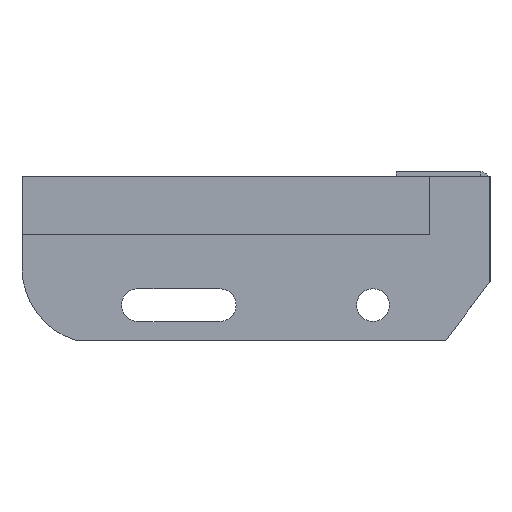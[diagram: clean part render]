
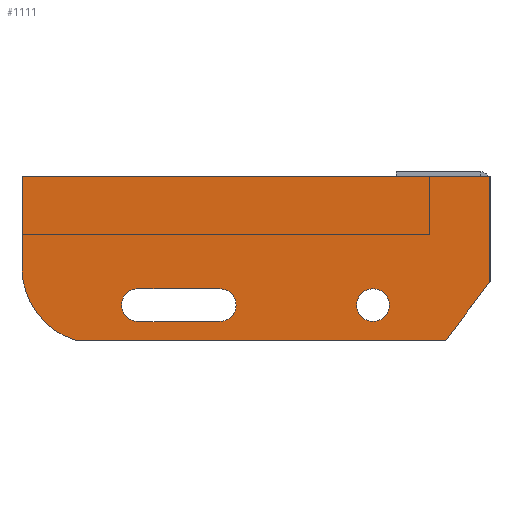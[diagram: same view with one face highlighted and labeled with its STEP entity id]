
A CAD part, left-side view. The second image highlights one B-rep face of the part: STEP entity #1111.
In plain terms, the highlighted planar face has unit normal (-1, 0, 0) as drawn and (0, 0, 1) by its records, which use the part's own axes.
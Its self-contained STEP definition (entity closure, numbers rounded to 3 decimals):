
#15 = VERTEX_POINT ( 'NONE', #165 ) ;
#21 = CARTESIAN_POINT ( 'NONE',  ( 0., 0., 3. ) ) ;
#30 = CARTESIAN_POINT ( 'NONE',  ( -115.5, -48., 3. ) ) ;
#66 = DIRECTION ( 'NONE',  ( 0., 0., 1. ) ) ;
#81 = DIRECTION ( 'NONE',  ( -1., 0., 0. ) ) ;
#90 = ORIENTED_EDGE ( 'NONE', *, *, #948, .T. ) ;
#91 = DIRECTION ( 'NONE',  ( 0., 0., 1. ) ) ;
#102 = VERTEX_POINT ( 'NONE', #1581 ) ;
#117 = EDGE_CURVE ( 'NONE', #898, #1334, #1098, .T. ) ;
#132 = VERTEX_POINT ( 'NONE', #30 ) ;
#165 = CARTESIAN_POINT ( 'NONE',  ( -200., -39., 3. ) ) ;
#168 = VERTEX_POINT ( 'NONE', #1945 ) ;
#176 = AXIS2_PLACEMENT_3D ( 'NONE', #391, #91, #1040 ) ;
#179 = VERTEX_POINT ( 'NONE', #684 ) ;
#180 = CARTESIAN_POINT ( 'NONE',  ( -18.839, -70., 3. ) ) ;
#185 = DIRECTION ( 'NONE',  ( -1., 0., 0. ) ) ;
#216 = DIRECTION ( 'NONE',  ( 0., 1., 0. ) ) ;
#270 = CARTESIAN_POINT ( 'NONE',  ( 0., -45., 3. ) ) ;
#276 = DIRECTION ( 'NONE',  ( 0., 0., 1. ) ) ;
#291 = EDGE_LOOP ( 'NONE', ( #870, #1460 ) ) ;
#302 = CIRCLE ( 'NONE', #1185, 7. ) ;
#316 = VERTEX_POINT ( 'NONE', #1192 ) ;
#373 = ORIENTED_EDGE ( 'NONE', *, *, #1555, .T. ) ;
#391 = CARTESIAN_POINT ( 'NONE',  ( -50., -55., 3. ) ) ;
#401 = AXIS2_PLACEMENT_3D ( 'NONE', #1843, #439, #1695 ) ;
#407 = DIRECTION ( 'NONE',  ( 1., 0., 0. ) ) ;
#434 = CARTESIAN_POINT ( 'NONE',  ( -57., -55., 3. ) ) ;
#439 = DIRECTION ( 'NONE',  ( 0., 0., 1. ) ) ;
#451 = ORIENTED_EDGE ( 'NONE', *, *, #2011, .F. ) ;
#455 = EDGE_CURVE ( 'NONE', #102, #1825, #793, .T. ) ;
#495 = DIRECTION ( 'NONE',  ( 1., 0., 0. ) ) ;
#496 = VECTOR ( 'NONE', #1368, 1000. ) ;
#501 = CARTESIAN_POINT ( 'NONE',  ( -150.5, -48., 3. ) ) ;
#535 = ORIENTED_EDGE ( 'NONE', *, *, #1600, .F. ) ;
#544 = CARTESIAN_POINT ( 'NONE',  ( -150.5, -48., 3. ) ) ;
#553 = CARTESIAN_POINT ( 'NONE',  ( -50., -55., 3. ) ) ;
#562 = AXIS2_PLACEMENT_3D ( 'NONE', #939, #276, #895 ) ;
#563 = EDGE_LOOP ( 'NONE', ( #1169, #1177, #451, #1079, #535 ) ) ;
#571 = CARTESIAN_POINT ( 'NONE',  ( -200., 0., 3. ) ) ;
#599 = DIRECTION ( 'NONE',  ( 1., 0., 0. ) ) ;
#614 = EDGE_CURVE ( 'NONE', #316, #102, #654, .T. ) ;
#654 = CIRCLE ( 'NONE', #1800, 7. ) ;
#684 = CARTESIAN_POINT ( 'NONE',  ( 0., -45., 3. ) ) ;
#685 = DIRECTION ( 'NONE',  ( 1., 0., 0. ) ) ;
#693 = CIRCLE ( 'NONE', #1867, 7. ) ;
#727 = ORIENTED_EDGE ( 'NONE', *, *, #876, .T. ) ;
#762 = CIRCLE ( 'NONE', #401, 7. ) ;
#766 = CARTESIAN_POINT ( 'NONE',  ( -150.5, -62., 3. ) ) ;
#771 = CARTESIAN_POINT ( 'NONE',  ( -167.5, -39., 3. ) ) ;
#793 = LINE ( 'NONE', #766, #1676 ) ;
#798 = CARTESIAN_POINT ( 'NONE',  ( -115.5, -62., 3. ) ) ;
#812 = VERTEX_POINT ( 'NONE', #1790 ) ;
#870 = ORIENTED_EDGE ( 'NONE', *, *, #1326, .F. ) ;
#876 = EDGE_CURVE ( 'NONE', #1532, #179, #1328, .T. ) ;
#895 = DIRECTION ( 'NONE',  ( 1., 0., 0. ) ) ;
#898 = VERTEX_POINT ( 'NONE', #1021 ) ;
#899 = LINE ( 'NONE', #1875, #496 ) ;
#918 = FACE_BOUND ( 'NONE', #291, .T. ) ;
#921 = EDGE_CURVE ( 'NONE', #812, #987, #693, .T. ) ;
#939 = CARTESIAN_POINT ( 'NONE',  ( -167.5, -39., 3. ) ) ;
#948 = EDGE_CURVE ( 'NONE', #1334, #15, #899, .T. ) ;
#955 = LINE ( 'NONE', #180, #1549 ) ;
#958 = ORIENTED_EDGE ( 'NONE', *, *, #1983, .T. ) ;
#987 = VERTEX_POINT ( 'NONE', #434 ) ;
#1001 = LINE ( 'NONE', #1145, #1452 ) ;
#1021 = CARTESIAN_POINT ( 'NONE',  ( 0., 0., 3. ) ) ;
#1025 = CIRCLE ( 'NONE', #176, 7. ) ;
#1040 = DIRECTION ( 'NONE',  ( 1., 0., 0. ) ) ;
#1056 = VECTOR ( 'NONE', #1951, 1000. ) ;
#1079 = ORIENTED_EDGE ( 'NONE', *, *, #1348, .F. ) ;
#1098 = LINE ( 'NONE', #21, #1345 ) ;
#1111 = ADVANCED_FACE ( 'NONE', ( #1688, #918, #1533 ), #1376, .T. ) ;
#1145 = CARTESIAN_POINT ( 'NONE',  ( 0., 0., 3. ) ) ;
#1169 = ORIENTED_EDGE ( 'NONE', *, *, #455, .F. ) ;
#1177 = ORIENTED_EDGE ( 'NONE', *, *, #614, .F. ) ;
#1185 = AXIS2_PLACEMENT_3D ( 'NONE', #1308, #66, #685 ) ;
#1192 = CARTESIAN_POINT ( 'NONE',  ( -157.5, -55., 3. ) ) ;
#1222 = DIRECTION ( 'NONE',  ( 1., 0., 0. ) ) ;
#1270 = DIRECTION ( 'NONE',  ( 0., 0., 1. ) ) ;
#1308 = CARTESIAN_POINT ( 'NONE',  ( -150.5, -55., 3. ) ) ;
#1317 = CARTESIAN_POINT ( 'NONE',  ( -150.5, -55., 3. ) ) ;
#1324 = EDGE_LOOP ( 'NONE', ( #958, #1367, #90, #373, #1705, #727 ) ) ;
#1326 = EDGE_CURVE ( 'NONE', #987, #812, #1025, .T. ) ;
#1328 = LINE ( 'NONE', #270, #1056 ) ;
#1334 = VERTEX_POINT ( 'NONE', #571 ) ;
#1345 = VECTOR ( 'NONE', #185, 1000. ) ;
#1348 = EDGE_CURVE ( 'NONE', #132, #1833, #1948, .T. ) ;
#1367 = ORIENTED_EDGE ( 'NONE', *, *, #117, .T. ) ;
#1368 = DIRECTION ( 'NONE',  ( 0., -1., 0. ) ) ;
#1376 = PLANE ( 'NONE',  #1738 ) ;
#1452 = VECTOR ( 'NONE', #216, 1000. ) ;
#1460 = ORIENTED_EDGE ( 'NONE', *, *, #921, .F. ) ;
#1532 = VERTEX_POINT ( 'NONE', #1985 ) ;
#1533 = FACE_BOUND ( 'NONE', #563, .T. ) ;
#1549 = VECTOR ( 'NONE', #1761, 1000. ) ;
#1555 = EDGE_CURVE ( 'NONE', #15, #168, #1616, .T. ) ;
#1581 = CARTESIAN_POINT ( 'NONE',  ( -150.5, -62., 3. ) ) ;
#1600 = EDGE_CURVE ( 'NONE', #1825, #132, #762, .T. ) ;
#1616 = CIRCLE ( 'NONE', #562, 32.5 ) ;
#1676 = VECTOR ( 'NONE', #599, 1000. ) ;
#1688 = FACE_OUTER_BOUND ( 'NONE', #1324, .T. ) ;
#1695 = DIRECTION ( 'NONE',  ( 1., 0., 0. ) ) ;
#1705 = ORIENTED_EDGE ( 'NONE', *, *, #1823, .T. ) ;
#1738 = AXIS2_PLACEMENT_3D ( 'NONE', #771, #1997, #1222 ) ;
#1761 = DIRECTION ( 'NONE',  ( 1., 0., 0. ) ) ;
#1790 = CARTESIAN_POINT ( 'NONE',  ( -43., -55., 3. ) ) ;
#1800 = AXIS2_PLACEMENT_3D ( 'NONE', #1317, #1270, #495 ) ;
#1806 = VECTOR ( 'NONE', #81, 1000. ) ;
#1809 = DIRECTION ( 'NONE',  ( 0., 0., 1. ) ) ;
#1823 = EDGE_CURVE ( 'NONE', #168, #1532, #955, .T. ) ;
#1825 = VERTEX_POINT ( 'NONE', #798 ) ;
#1833 = VERTEX_POINT ( 'NONE', #501 ) ;
#1843 = CARTESIAN_POINT ( 'NONE',  ( -115.5, -55., 3. ) ) ;
#1867 = AXIS2_PLACEMENT_3D ( 'NONE', #553, #1809, #407 ) ;
#1875 = CARTESIAN_POINT ( 'NONE',  ( -200., 0., 3. ) ) ;
#1945 = CARTESIAN_POINT ( 'NONE',  ( -177.26, -70., 3. ) ) ;
#1948 = LINE ( 'NONE', #544, #1806 ) ;
#1951 = DIRECTION ( 'NONE',  ( 0.602, 0.799, 0. ) ) ;
#1983 = EDGE_CURVE ( 'NONE', #179, #898, #1001, .T. ) ;
#1985 = CARTESIAN_POINT ( 'NONE',  ( -18.839, -70., 3. ) ) ;
#1997 = DIRECTION ( 'NONE',  ( 0., 0., 1. ) ) ;
#2011 = EDGE_CURVE ( 'NONE', #1833, #316, #302, .T. ) ;
